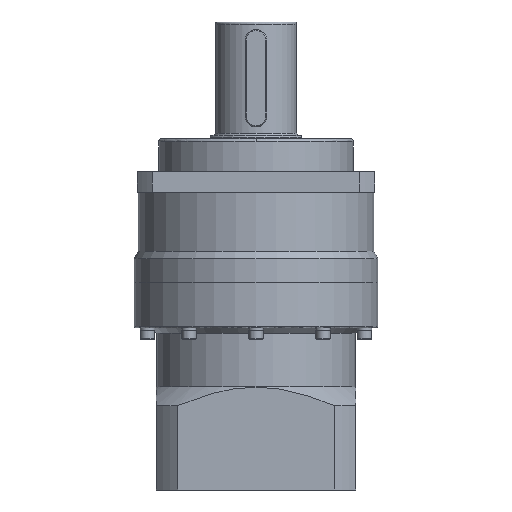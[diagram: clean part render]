
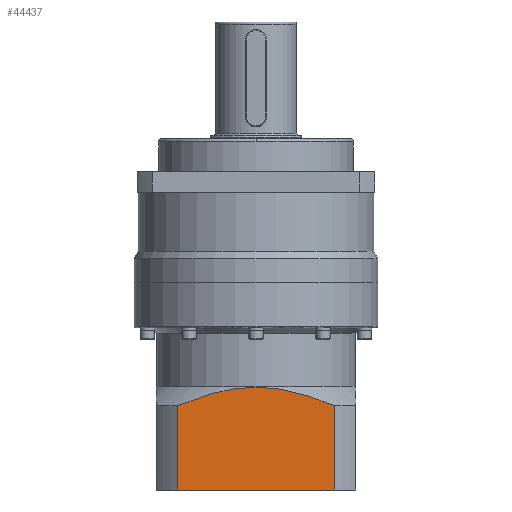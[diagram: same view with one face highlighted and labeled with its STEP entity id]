
A CAD part, front view. The second image highlights one B-rep face of the part: STEP entity #44437.
In plain terms, the highlighted planar face has unit normal (0, -1, 0).
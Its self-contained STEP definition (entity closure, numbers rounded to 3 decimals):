
#381 = ORIENTED_EDGE ( 'NONE', *, *, #29348, .F. ) ;
#636 = VECTOR ( 'NONE', #35817, 1000. ) ;
#1353 = CARTESIAN_POINT ( 'NONE',  ( 72.457, -92.5, -204. ) ) ;
#2578 = CARTESIAN_POINT ( 'NONE',  ( -49.115, -92.5, -208.15 ) ) ;
#2811 = CARTESIAN_POINT ( 'NONE',  ( 66.682, -92.5, -214.551 ) ) ;
#6453 = CARTESIAN_POINT ( 'NONE',  ( -31.149, -92.5, -203.235 ) ) ;
#8452 = PLANE ( 'NONE',  #15605 ) ;
#8854 = ORIENTED_EDGE ( 'NONE', *, *, #42895, .F. ) ;
#9065 = ORIENTED_EDGE ( 'NONE', *, *, #28518, .F. ) ;
#10219 = CARTESIAN_POINT ( 'NONE',  ( -15.753, -92.5, -200.723 ) ) ;
#11079 = B_SPLINE_CURVE_WITH_KNOTS ( 'NONE', 3,
 ( #40804, #21636, #37108, #14170, #40966, #17930, #44839, #21823, #48653, #25696, #2811, #29513 ),
 .UNSPECIFIED., .F., .F.,
 ( 4, 2, 2, 2, 2, 4 ),
 ( 0., 0.019, 0.037, 0.047, 0.056, 0.075 ),
 .UNSPECIFIED. ) ;
#11955 = VECTOR ( 'NONE', #39395, 1000. ) ;
#12876 = CARTESIAN_POINT ( 'NONE',  ( -72.457, -92.5, -194. ) ) ;
#13139 = LINE ( 'NONE', #43106, #11955 ) ;
#14110 = CARTESIAN_POINT ( 'NONE',  ( -6.319, -92.5, -199.955 ) ) ;
#14170 = CARTESIAN_POINT ( 'NONE',  ( 24.837, -92.5, -201.96 ) ) ;
#15298 = VERTEX_POINT ( 'NONE', #20958 ) ;
#15605 = AXIS2_PLACEMENT_3D ( 'NONE', #35244, #39116, #16114 ) ;
#16114 = DIRECTION ( 'NONE',  ( 1., 0., 0. ) ) ;
#17205 = VERTEX_POINT ( 'NONE', #22892 ) ;
#17716 = CARTESIAN_POINT ( 'NONE',  ( -66.683, -92.5, -214.552 ) ) ;
#17876 = CARTESIAN_POINT ( 'NONE',  ( 0., -92.5, -199.843 ) ) ;
#17930 = CARTESIAN_POINT ( 'NONE',  ( 39.997, -92.5, -205.495 ) ) ;
#18768 = CARTESIAN_POINT ( 'NONE',  ( 72.457, -92.5, -216.994 ) ) ;
#20930 = LINE ( 'NONE', #12876, #636 ) ;
#20958 = CARTESIAN_POINT ( 'NONE',  ( 72.457, -92.5, -295. ) ) ;
#21636 = CARTESIAN_POINT ( 'NONE',  ( 6.296, -92.5, -199.843 ) ) ;
#21823 = CARTESIAN_POINT ( 'NONE',  ( 49.001, -92.5, -208.174 ) ) ;
#22892 = CARTESIAN_POINT ( 'NONE',  ( -72.457, -92.5, -295. ) ) ;
#23452 = EDGE_CURVE ( 'NONE', #36463, #17205, #20930, .T. ) ;
#25476 = CARTESIAN_POINT ( 'NONE',  ( -72.457, -92.5, -216.994 ) ) ;
#25696 = CARTESIAN_POINT ( 'NONE',  ( 60.849, -92.5, -212.263 ) ) ;
#27846 = VERTEX_POINT ( 'NONE', #18768 ) ;
#27869 = LINE ( 'NONE', #1353, #47080 ) ;
#28518 = EDGE_CURVE ( 'NONE', #27846, #15298, #27869, .T. ) ;
#29292 = CARTESIAN_POINT ( 'NONE',  ( -43.18, -92.5, -206.312 ) ) ;
#29348 = EDGE_CURVE ( 'NONE', #36463, #47366, #29357, .T. ) ;
#29357 = B_SPLINE_CURVE_WITH_KNOTS ( 'NONE', 3,
 ( #25476, #17716, #32689, #2578, #29292, #6453, #33175, #10219, #37063, #14110, #40915, #17876 ),
 .UNSPECIFIED., .F., .F.,
 ( 4, 2, 2, 2, 2, 4 ),
 ( -0.075, -0.056, -0.037, -0.019, -0.009, 0. ),
 .UNSPECIFIED. ) ;
#29513 = CARTESIAN_POINT ( 'NONE',  ( 72.457, -92.5, -216.994 ) ) ;
#30899 = CARTESIAN_POINT ( 'NONE',  ( 0., -92.5, -199.843 ) ) ;
#31960 = DIRECTION ( 'NONE',  ( 0., 0., -1. ) ) ;
#32063 = CARTESIAN_POINT ( 'NONE',  ( -72.457, -92.5, -216.994 ) ) ;
#32689 = CARTESIAN_POINT ( 'NONE',  ( -60.867, -92.5, -212.27 ) ) ;
#33175 = CARTESIAN_POINT ( 'NONE',  ( -25.053, -92.5, -201.997 ) ) ;
#35244 = CARTESIAN_POINT ( 'NONE',  ( -92.5, -92.5, -194. ) ) ;
#35609 = EDGE_LOOP ( 'NONE', ( #381, #40264, #44581, #9065, #8854 ) ) ;
#35817 = DIRECTION ( 'NONE',  ( 0., 0., -1. ) ) ;
#36463 = VERTEX_POINT ( 'NONE', #32063 ) ;
#37063 = CARTESIAN_POINT ( 'NONE',  ( -12.626, -92.5, -200.395 ) ) ;
#37108 = CARTESIAN_POINT ( 'NONE',  ( 12.52, -92.5, -200.288 ) ) ;
#39116 = DIRECTION ( 'NONE',  ( 0., -1., 0. ) ) ;
#39395 = DIRECTION ( 'NONE',  ( 1., 0., 0. ) ) ;
#40259 = EDGE_CURVE ( 'NONE', #17205, #15298, #13139, .T. ) ;
#40264 = ORIENTED_EDGE ( 'NONE', *, *, #23452, .T. ) ;
#40804 = CARTESIAN_POINT ( 'NONE',  ( 0., -92.5, -199.843 ) ) ;
#40915 = CARTESIAN_POINT ( 'NONE',  ( -3.162, -92.5, -199.843 ) ) ;
#40966 = CARTESIAN_POINT ( 'NONE',  ( 30.932, -92.5, -203.186 ) ) ;
#42895 = EDGE_CURVE ( 'NONE', #47366, #27846, #11079, .T. ) ;
#43106 = CARTESIAN_POINT ( 'NONE',  ( -92.5, -92.5, -295. ) ) ;
#44437 = ADVANCED_FACE ( 'NONE', ( #46717 ), #8452, .T. ) ;
#44581 = ORIENTED_EDGE ( 'NONE', *, *, #40259, .T. ) ;
#44839 = CARTESIAN_POINT ( 'NONE',  ( 43.006, -92.5, -206.342 ) ) ;
#46717 = FACE_OUTER_BOUND ( 'NONE', #35609, .T. ) ;
#47080 = VECTOR ( 'NONE', #31960, 1000. ) ;
#47366 = VERTEX_POINT ( 'NONE', #30899 ) ;
#48653 = CARTESIAN_POINT ( 'NONE',  ( 51.98, -92.5, -209.156 ) ) ;
